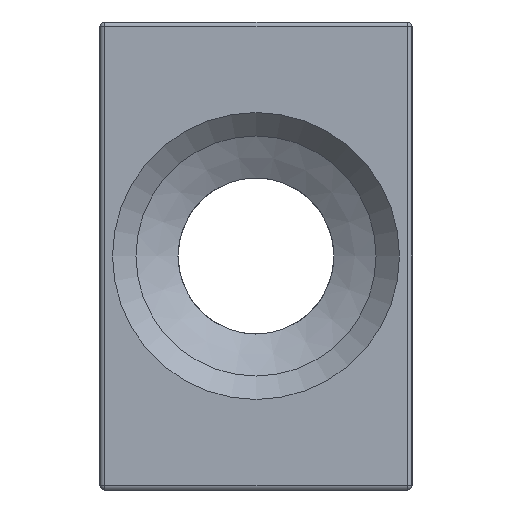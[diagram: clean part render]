
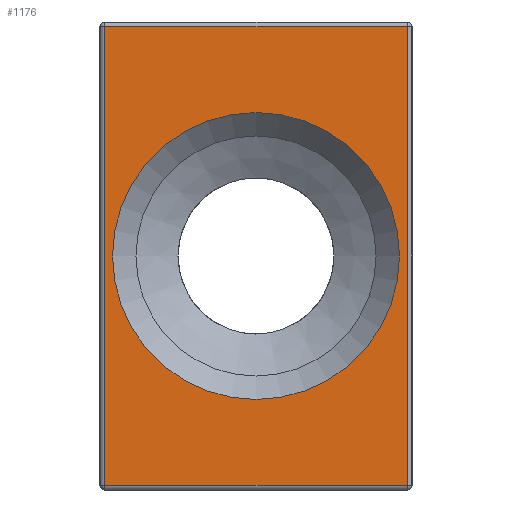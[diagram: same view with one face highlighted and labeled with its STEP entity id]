
A CAD part, left-side view. The second image highlights one B-rep face of the part: STEP entity #1176.
In plain terms, the highlighted planar face has unit normal (-1, 0, 0).
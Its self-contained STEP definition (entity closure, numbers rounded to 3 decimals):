
#66=FACE_BOUND('',#356,.T.);
#76=PLANE('',#1298);
#82=LINE('',#1905,#151);
#88=LINE('',#1935,#157);
#92=LINE('',#1941,#161);
#94=LINE('',#1944,#163);
#151=VECTOR('',#1476,10.);
#157=VECTOR('',#1512,10.);
#161=VECTOR('',#1520,10.);
#163=VECTOR('',#1524,10.);
#277=FACE_OUTER_BOUND('',#355,.T.);
#355=EDGE_LOOP('',(#874,#875,#876,#877));
#356=EDGE_LOOP('',(#878));
#441=CIRCLE('',#1299,9.198);
#501=VERTEX_POINT('',#1873);
#512=VERTEX_POINT('',#1900);
#515=VERTEX_POINT('',#1910);
#519=VERTEX_POINT('',#1927);
#529=VERTEX_POINT('',#1975);
#620=EDGE_CURVE('',#501,#512,#82,.T.);
#635=EDGE_CURVE('',#519,#515,#88,.T.);
#639=EDGE_CURVE('',#512,#519,#92,.T.);
#641=EDGE_CURVE('',#515,#501,#94,.T.);
#657=EDGE_CURVE('',#529,#529,#441,.T.);
#874=ORIENTED_EDGE('',*,*,#635,.F.);
#875=ORIENTED_EDGE('',*,*,#639,.F.);
#876=ORIENTED_EDGE('',*,*,#620,.F.);
#877=ORIENTED_EDGE('',*,*,#641,.F.);
#878=ORIENTED_EDGE('',*,*,#657,.F.);
#1176=ADVANCED_FACE('',(#277,#66),#76,.T.);
#1298=AXIS2_PLACEMENT_3D('',#1974,#1561,#1562);
#1299=AXIS2_PLACEMENT_3D('',#1976,#1563,#1564);
#1476=DIRECTION('',(0.,1.,0.));
#1512=DIRECTION('',(0.,-1.,0.));
#1520=DIRECTION('',(0.,0.,1.));
#1524=DIRECTION('',(0.,0.,-1.));
#1561=DIRECTION('center_axis',(-1.,0.,0.));
#1562=DIRECTION('ref_axis',(0.,0.,1.));
#1563=DIRECTION('center_axis',(-1.,0.,0.));
#1564=DIRECTION('ref_axis',(0.,1.,0.));
#1873=CARTESIAN_POINT('',(-72.,-9.7,-14.7));
#1900=CARTESIAN_POINT('',(-72.,9.7,-14.7));
#1905=CARTESIAN_POINT('',(-72.,0.,-14.7));
#1910=CARTESIAN_POINT('',(-72.,-9.7,14.7));
#1927=CARTESIAN_POINT('',(-72.,9.7,14.7));
#1935=CARTESIAN_POINT('',(-72.,0.,14.7));
#1941=CARTESIAN_POINT('',(-72.,9.7,-7.5));
#1944=CARTESIAN_POINT('',(-72.,-9.7,-7.5));
#1974=CARTESIAN_POINT('Origin',(-72.,0.,-15.));
#1975=CARTESIAN_POINT('',(-72.,-9.198,0.));
#1976=CARTESIAN_POINT('Origin',(-72.,0.,0.));
